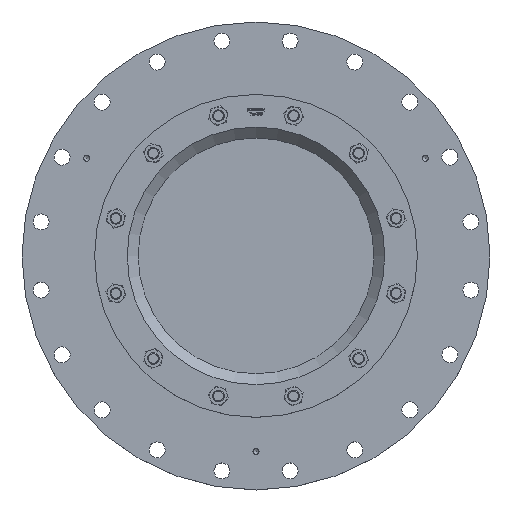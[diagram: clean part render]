
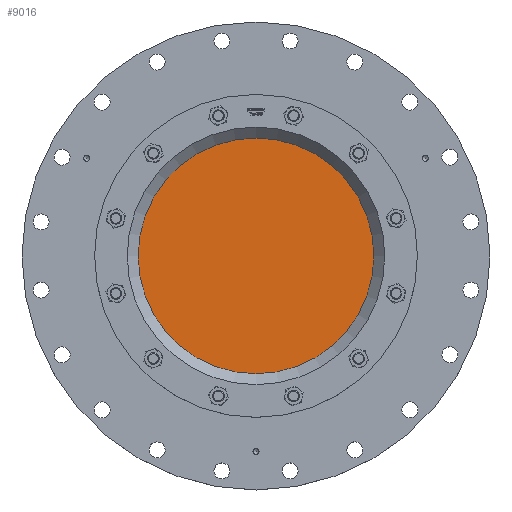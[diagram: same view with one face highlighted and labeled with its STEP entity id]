
A CAD part, top view. The second image highlights one B-rep face of the part: STEP entity #9016.
In plain terms, the highlighted planar face has unit normal (0, 0, 1).
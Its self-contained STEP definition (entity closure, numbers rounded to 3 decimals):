
#2039=FACE_OUTER_BOUND('',#2608,.T.);
#2608=EDGE_LOOP('',(#5706));
#3333=CIRCLE('',#9589,162.5);
#3591=VERTEX_POINT('',#12223);
#4431=EDGE_CURVE('',#3591,#3591,#3333,.T.);
#5706=ORIENTED_EDGE('',*,*,#4431,.F.);
#8236=PLANE('',#9588);
#9016=ADVANCED_FACE('',(#2039),#8236,.F.);
#9588=AXIS2_PLACEMENT_3D('',#12222,#10311,#10312);
#9589=AXIS2_PLACEMENT_3D('',#12224,#10313,#10314);
#10311=DIRECTION('center_axis',(0.,0.,-1.));
#10312=DIRECTION('ref_axis',(-1.,0.,0.));
#10313=DIRECTION('center_axis',(0.,0.,-1.));
#10314=DIRECTION('ref_axis',(-1.,0.,0.));
#12222=CARTESIAN_POINT('Origin',(0.,0.,90.));
#12223=CARTESIAN_POINT('',(162.5,0.,90.));
#12224=CARTESIAN_POINT('Origin',(0.,0.,90.));
